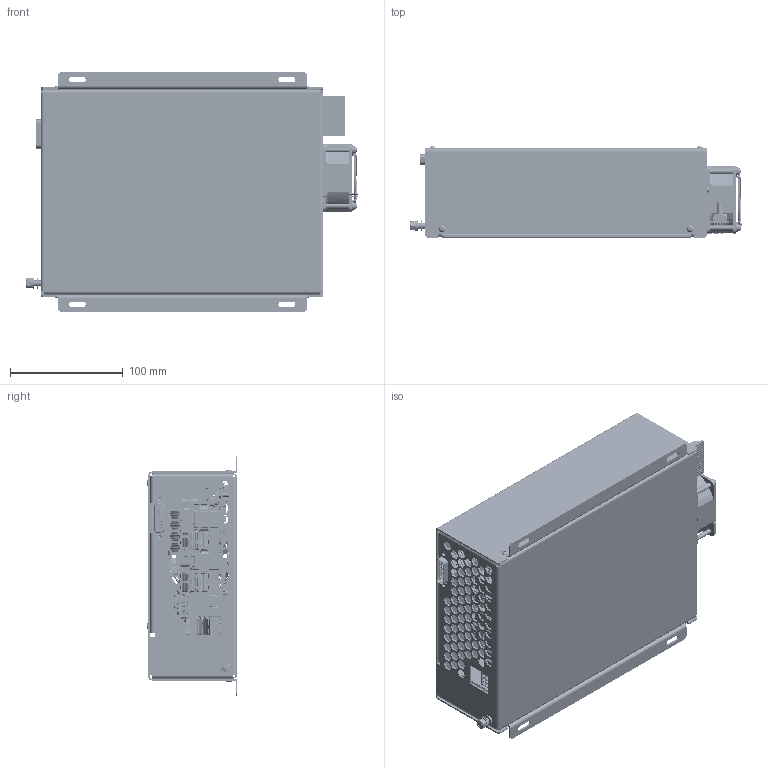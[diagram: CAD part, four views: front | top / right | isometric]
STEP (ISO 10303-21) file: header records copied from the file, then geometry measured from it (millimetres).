
FILE_DESCRIPTION (( 'STEP AP214' ), '1' );
FILE_NAME ('445.00.00.000-A08_PDD-300-LP.STEP', '2023-05-01T09:26:38', ( '' ), ( '' ), 'SwSTEP 2.0', 'SolidWorks 2019', '' );
FILE_SCHEMA (( 'AUTOMOTIVE_DESIGN' ));
Length unit declared in the file: millimetre
Products named in the file (27): Fan grill 60x60; 445.00.00.005-A01_Isolator; DB-15M; Screw M3x6 ISO 7380; Clinch nut TR-S-M3-2-ZI; Nut M5 DIN934; 445.00.00.002-A02_Cover_-00; 445.00.00.001-A05_Housing_-00; Washer M3 DIN127; FHS flush head stud TR-FHS-M5-15-ZI; 445.00.00.003-A01_Corner_-00; 051.ﾑﾊ.001.ﾀ01 PDD-300 FAN Rev.1.0; Screw M3x8 DIN912; Blind Standoff TR-BSO-M3-12 ZI; Screw M3x6 DIN7991; 445.10.00.000-A05_PDD-300-LP Assembly unit; Screw M3x12 ISO 7380; 048.CK.001.A01 PDD-300 interface internal êáë DocRev.1.1; 砎鍒鍱; Washer M3 DIN125; Washer M5 DIN127; Washer M5 DIN125; 445.00.00.000-A08_PDD-300-LP; _PDD300 revC; Blind Standoff TR-BSO-M3-25 ZI; 445.11.00.000-A02_PDD-300 Assembly unit; FAN 60õ60õ25
Assembly tree (92 placements, depth 4):
  445.00.00.000-A08_PDD-300-LP
    445.10.00.000-A05_PDD-300-LP Assembly unit
      048.CK.001.A01 PDD-300 interface internal êáë DocRev.1.1
        DB-15M
        砎鍒鍱  x15
      051.ﾑﾊ.001.ﾀ01 PDD-300 FAN Rev.1.0
        FAN 60õ60õ25
      445.00.00.001-A05_Housing_-00
      Blind Standoff TR-BSO-M3-12 ZI  x6
      FHS flush head stud TR-FHS-M5-15-ZI
      Washer M5 DIN125  x2
      Washer M5 DIN127
      Nut M5 DIN934
      Blind Standoff TR-BSO-M3-25 ZI  x4
      Fan grill 60x60
      Washer M3 DIN125  x4
      Washer M3 DIN127  x4
      Screw M3x12 ISO 7380  x4
      Clinch nut TR-S-M3-2-ZI  x8
    445.11.00.000-A02_PDD-300 Assembly unit
      445.00.00.003-A01_Corner_-00
      Clinch nut TR-S-M3-2-ZI  x2
    _PDD300 revC
    445.00.00.002-A02_Cover_-00
    445.00.00.005-A01_Isolator
    Screw M3x6 DIN7991
    Screw M3x6 ISO 7380  x9
    Washer M3 DIN125  x6
    Washer M3 DIN127  x6
    Screw M3x8 DIN912  x6
Bounding box: 294.61 x 80.65 x 212.5 mm (x, y, z)
Volume: 305171.5 mm3; surface area: 791529.9 mm2
Topology: 88 solids, 539 shells, 26118 faces, 66873 edges, 42176 vertices
Faces by surface type: plane 11628, cylinder 7315, bspline 5784, torus 750, cone 411, sphere 230
Entity records: 1069783 total; most frequent: CARTESIAN_POINT 284893, ORIENTED_EDGE 123782, DIRECTION 98020, EDGE_CURVE 61915, VERTEX_POINT 39348, AXIS2_PLACEMENT_3D 33378, VECTOR 31264, LINE 31264
